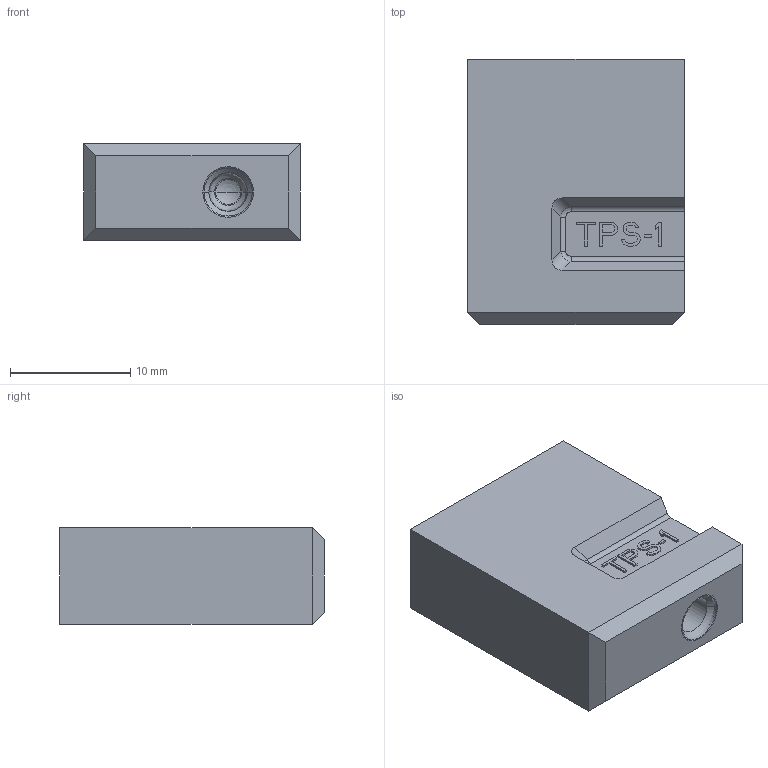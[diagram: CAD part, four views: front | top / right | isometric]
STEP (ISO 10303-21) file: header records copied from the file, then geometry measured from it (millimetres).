
FILE_DESCRIPTION((''),'2;1');
FILE_NAME('TPS-1','2012-11-08T',('gsawatzky'),(''),'PRO/ENGINEER BY PARAMETRIC TECHNOLOGY CORPORATION, 2011490','PRO/ENGINEER BY PARAMETRIC TECHNOLOGY CORPORATION, 2011490','');
FILE_SCHEMA(('CONFIG_CONTROL_DESIGN'));
Length unit declared in the file: millimetre
Products named in the file (1): TPS-1
Bounding box: 18 x 22 x 8 mm (x, y, z)
Volume: 2712.1 mm3; surface area: 1764.2 mm2
Topology: 1 solids, 2 shells, 240 faces, 655 edges, 443 vertices
Faces by surface type: plane 184, cylinder 20, extrusion 17, bspline 10, cone 6, sphere 2, torus 1
Entity records: 9377 total; most frequent: CARTESIAN_POINT 3401, ORIENTED_EDGE 1262, DIRECTION 1089, EDGE_CURVE 633, VECTOR 561, LINE 544, VERTEX_POINT 414, AXIS2_PLACEMENT_3D 264
